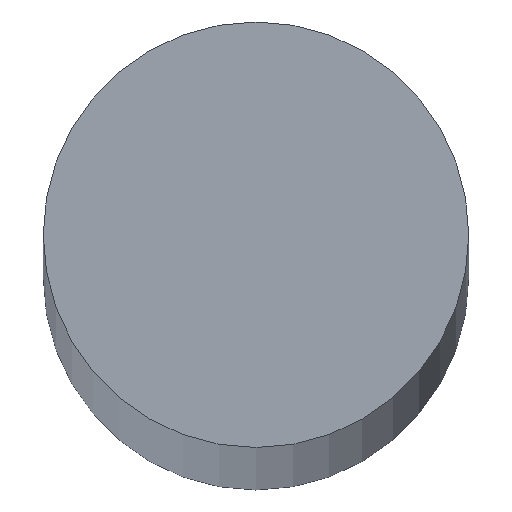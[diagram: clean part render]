
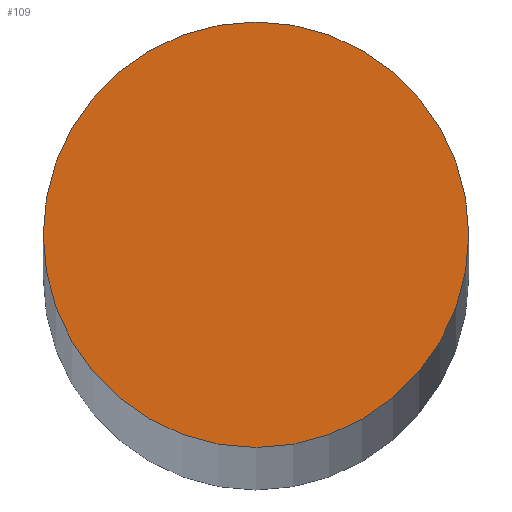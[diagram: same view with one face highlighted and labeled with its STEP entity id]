
A CAD part, top view. The second image highlights one B-rep face of the part: STEP entity #109.
In plain terms, the highlighted planar face has unit normal (0, 0, 1).
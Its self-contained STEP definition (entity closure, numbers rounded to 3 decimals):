
#24 = VERTEX_POINT('',#25);
#25 = CARTESIAN_POINT('',(1.5,0.,171.537));
#32 = CYLINDRICAL_SURFACE('',#33,1.5);
#33 = AXIS2_PLACEMENT_3D('',#34,#35,#36);
#34 = CARTESIAN_POINT('',(0.,0.,0.));
#35 = DIRECTION('',(-0.,-0.,-1.));
#36 = DIRECTION('',(1.,0.,-0.));
#51 = EDGE_CURVE('',#24,#24,#52,.T.);
#52 = SURFACE_CURVE('',#53,(#58,#65),.PCURVE_S1.);
#53 = CIRCLE('',#54,1.5);
#54 = AXIS2_PLACEMENT_3D('',#55,#56,#57);
#55 = CARTESIAN_POINT('',(0.,0.,171.537));
#56 = DIRECTION('',(0.,0.,1.));
#57 = DIRECTION('',(1.,0.,-0.));
#58 = PCURVE('',#32,#59);
#59 = DEFINITIONAL_REPRESENTATION('',(#60),#64);
#60 = LINE('',#61,#62);
#61 = CARTESIAN_POINT('',(-0.,-171.537));
#62 = VECTOR('',#63,1.);
#63 = DIRECTION('',(-1.,0.));
#64 = ( GEOMETRIC_REPRESENTATION_CONTEXT(2) 
PARAMETRIC_REPRESENTATION_CONTEXT() REPRESENTATION_CONTEXT('2D SPACE',''
  ) );
#65 = PCURVE('',#66,#71);
#66 = PLANE('',#67);
#67 = AXIS2_PLACEMENT_3D('',#68,#69,#70);
#68 = CARTESIAN_POINT('',(0.,0.,
    171.537));
#69 = DIRECTION('',(0.,0.,1.));
#70 = DIRECTION('',(1.,0.,-0.));
#71 = DEFINITIONAL_REPRESENTATION('',(#72),#76);
#72 = CIRCLE('',#73,1.5);
#73 = AXIS2_PLACEMENT_2D('',#74,#75);
#74 = CARTESIAN_POINT('',(0.,0.));
#75 = DIRECTION('',(1.,0.));
#76 = ( GEOMETRIC_REPRESENTATION_CONTEXT(2) 
PARAMETRIC_REPRESENTATION_CONTEXT() REPRESENTATION_CONTEXT('2D SPACE',''
  ) );
#109 = ADVANCED_FACE('',(#110),#66,.T.);
#110 = FACE_BOUND('',#111,.T.);
#111 = EDGE_LOOP('',(#112));
#112 = ORIENTED_EDGE('',*,*,#51,.T.);
